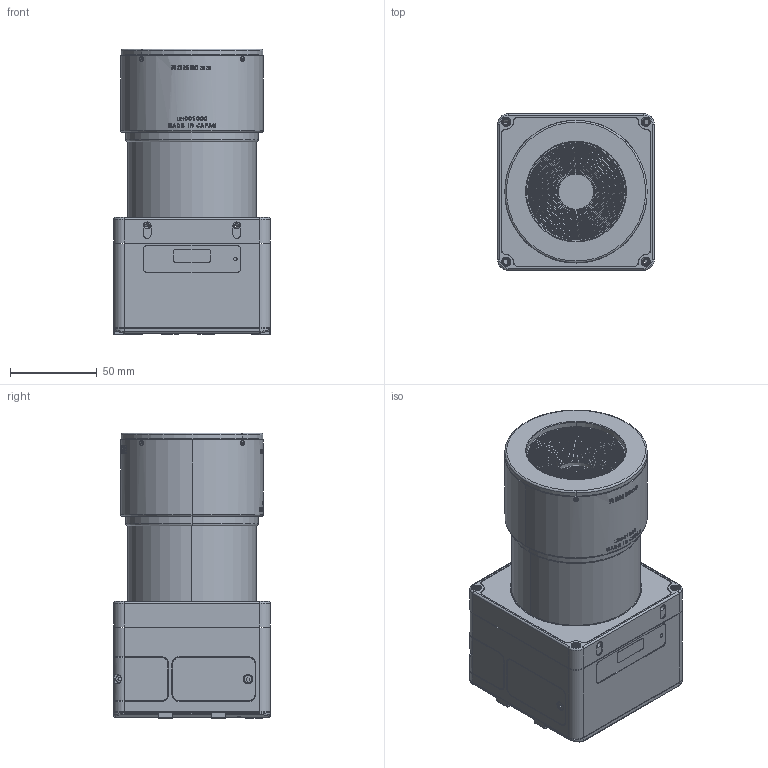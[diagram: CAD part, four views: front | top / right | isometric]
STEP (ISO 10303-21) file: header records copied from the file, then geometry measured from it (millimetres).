
FILE_DESCRIPTION (( 'STEP AP203' ), '1' );
FILE_NAME ('iXM RSM Camera with 80mm lens.STEP', '2018-01-24T08:40:59', ( '' ), ( '' ), 'SwSTEP 2.0', 'SolidWorks 2017', '' );
FILE_SCHEMA (( 'CONFIG_CONTROL_DESIGN' ));
Products named in the file (1): iXM RSM Camera with 80mm lens
Bounding box: 90 x 90 x 164.3 mm (x, y, z)
Surface area: 85277.5 mm2 (no closed solid volume)
Topology: 0 solids, 801 shells, 2721 faces, 11073 edges, 9032 vertices
Faces by surface type: plane 1657, cylinder 460, cone 355, bspline 187, torus 58, sphere 4
Entity records: 135699 total; most frequent: CARTESIAN_POINT 49281, DIRECTION 16741, ORIENTED_EDGE 14388, EDGE_CURVE 11069, VERTEX_POINT 9032, VECTOR 7523, LINE 7523, AXIS2_PLACEMENT_3D 4609
